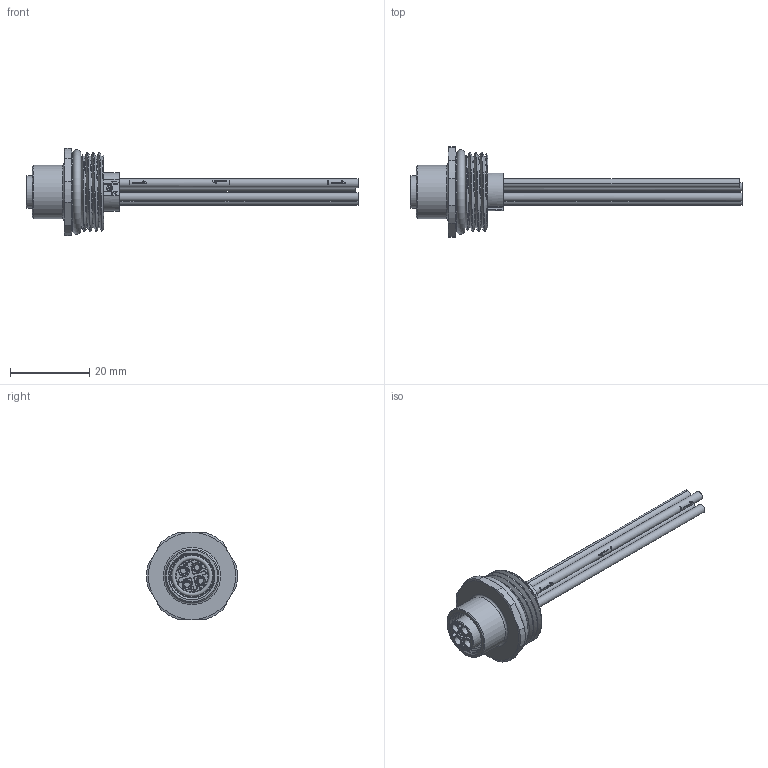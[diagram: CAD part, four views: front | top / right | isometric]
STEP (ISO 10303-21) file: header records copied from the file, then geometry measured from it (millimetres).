
FILE_DESCRIPTION(/* description */ (''),/* implementation_level */ '2;1');
FILE_NAME(/* name */ '09 0692 642 04 002_00-Flanschdose - S-Kodierung.stp',/* time_stamp */ '2017-07-10T11:49:25+02:00',/* author */ (''),/* organization */ (''),/* preprocessor_version */ 'ST-DEVELOPER v16',/* originating_system */ 'SIEMENS PLM Software NX 11.0',/* authorisation */ '');
FILE_SCHEMA (('AUTOMOTIVE_DESIGN { 1 0 10303 214 3 1 1 1 }'));
Length unit declared in the file: millimetre
Products named in the file (1): smag1BF40F37uy18
Bounding box: 83.72 x 22.93 x 22 mm (x, y, z)
Surface area: 5640.7 mm2
Topology: 1 solids, 2 shells, 500 faces, 1268 edges, 828 vertices
Faces by surface type: plane 242, cylinder 135, extrusion 55, torus 34, cone 30, bspline 4
Full cylindrical faces by diameter (mm): 1.08 x1, 1.5 x1, 1.6 x4, 1.8 x1, 2.23 x3, 2.25 x4, 2.35 x4, 8.3 x2, 10.75 x1, 10.917 x5, 13.5 x1, 17.3 x2
Entity records: 19970 total; most frequent: CARTESIAN_POINT 8551, ORIENTED_EDGE 2292, DIRECTION 2169, EDGE_CURVE 1146, VERTEX_POINT 767, AXIS2_PLACEMENT_3D 763, VECTOR 643, EDGE_LOOP 597
